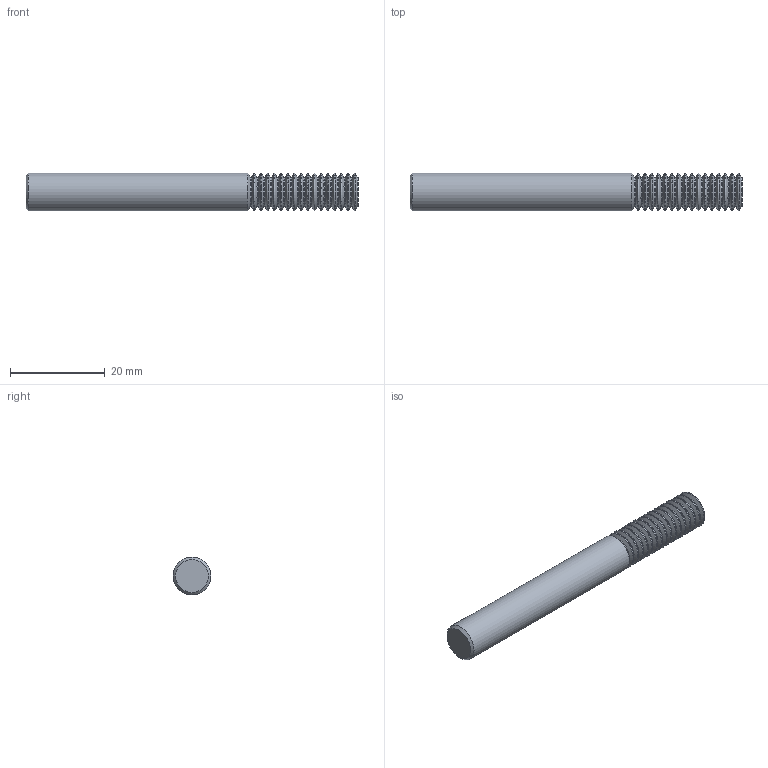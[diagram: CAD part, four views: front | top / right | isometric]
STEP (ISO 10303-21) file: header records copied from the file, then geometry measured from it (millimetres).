
FILE_DESCRIPTION(/* description */ (''),/* implementation_level */ '2;1');
FILE_NAME(/* name */ '00031705-TDM',/* time_stamp */ '2024-02-20T09:35:57+01:00',/* author */ (''),/* organization */ (''),/* preprocessor_version */ 'ST-DEVELOPER v16.5',/* originating_system */ 'HiCAD 2017 2201.0 Build 268',/* authorisation */ '');
FILE_SCHEMA (('AUTOMOTIVE_DESIGN { 1 0 10303 214 1 1 1 1 }'));
Length unit declared in the file: millimetre
Products named in the file (3): Root; ROTATIONSTEIL_0
Assembly tree (2 placements, depth 3):
  Root
    ROTATIONSTEIL_0
      ROTATIONSTEIL_0
Bounding box: 70 x 8 x 8 mm (x, y, z)
Volume: 3230.7 mm3; surface area: 2191 mm2
Topology: 2 solids, 2 shells, 106 faces, 208 edges, 106 vertices
Faces by surface type: torus 49, cone 34, cylinder 19, plane 4
Full cylindrical faces by diameter (mm): 6.112 x18, 8 x1
Entity records: 3204 total; most frequent: DIRECTION 428, CARTESIAN_POINT 318, AXIS2_PLACEMENT_3D 214, PRESENTATION_STYLE_ASSIGNMENT 210, COLOUR_RGB 210, DRAUGHTING_PRE_DEFINED_CURVE_FONT 208, CURVE_STYLE 208, OVER_RIDING_STYLED_ITEM 208
